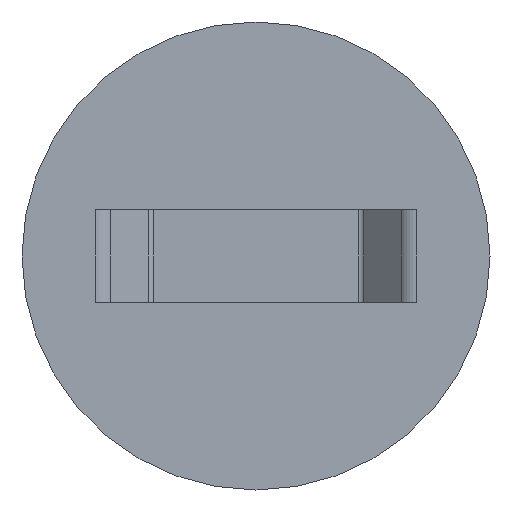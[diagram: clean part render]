
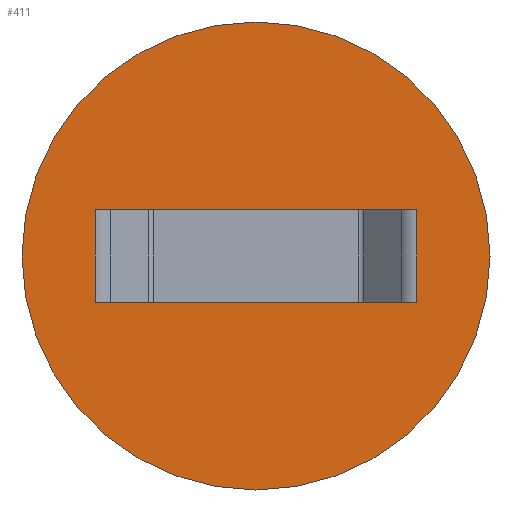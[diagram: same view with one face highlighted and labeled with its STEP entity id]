
A CAD part, front view. The second image highlights one B-rep face of the part: STEP entity #411.
In plain terms, the highlighted planar face has unit normal (0, -1, 0).
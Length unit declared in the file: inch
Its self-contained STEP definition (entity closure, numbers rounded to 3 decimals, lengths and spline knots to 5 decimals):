
#4 = CARTESIAN_POINT ( 'NONE',  ( 0.68643, -0.059, 0. ) ) ;
#27 = VECTOR ( 'NONE', #541, 39.37008 ) ;
#36 = EDGE_CURVE ( 'NONE', #315, #49, #259, .T. ) ;
#49 = VERTEX_POINT ( 'NONE', #778 ) ;
#55 = CARTESIAN_POINT ( 'NONE',  ( 0., -0.059, -0.197 ) ) ;
#61 = VECTOR ( 'NONE', #268, 39.37008 ) ;
#92 = CARTESIAN_POINT ( 'NONE',  ( 0.68643, -0.059, -0.394 ) ) ;
#128 = CARTESIAN_POINT ( 'NONE',  ( -0.68643, -0.059, -0.394 ) ) ;
#146 = CARTESIAN_POINT ( 'NONE',  ( 0., -0.059, -0.197 ) ) ;
#155 = CARTESIAN_POINT ( 'NONE',  ( -1., -0.059, -0.394 ) ) ;
#172 = DIRECTION ( 'NONE',  ( 1., 0., 0. ) ) ;
#182 = DIRECTION ( 'NONE',  ( 0., 0., 1. ) ) ;
#184 = EDGE_LOOP ( 'NONE', ( #742, #773, #581, #753 ) ) ;
#213 = LINE ( 'NONE', #335, #61 ) ;
#217 = EDGE_CURVE ( 'NONE', #488, #49, #729, .T. ) ;
#237 = VECTOR ( 'NONE', #182, 39.37008 ) ;
#259 = LINE ( 'NONE', #413, #27 ) ;
#264 = CIRCLE ( 'NONE', #754, 1. ) ;
#268 = DIRECTION ( 'NONE',  ( 0., 0., 1. ) ) ;
#302 = DIRECTION ( 'NONE',  ( 0., -1., 0. ) ) ;
#315 = VERTEX_POINT ( 'NONE', #4 ) ;
#334 = EDGE_LOOP ( 'NONE', ( #766, #588 ) ) ;
#335 = CARTESIAN_POINT ( 'NONE',  ( 0.68643, -0.059, -0.394 ) ) ;
#339 = PLANE ( 'NONE',  #349 ) ;
#349 = AXIS2_PLACEMENT_3D ( 'NONE', #155, #771, #404 ) ;
#373 = VERTEX_POINT ( 'NONE', #392 ) ;
#380 = EDGE_CURVE ( 'NONE', #751, #315, #213, .T. ) ;
#392 = CARTESIAN_POINT ( 'NONE',  ( 1., -0.059, -0.197 ) ) ;
#404 = DIRECTION ( 'NONE',  ( 0., 0., -1. ) ) ;
#411 = ADVANCED_FACE ( 'NONE', ( #529, #475 ), #339, .T. ) ;
#413 = CARTESIAN_POINT ( 'NONE',  ( -0.68643, -0.059, 0. ) ) ;
#446 = VECTOR ( 'NONE', #172, 39.37008 ) ;
#458 = EDGE_CURVE ( 'NONE', #687, #373, #565, .T. ) ;
#475 = FACE_BOUND ( 'NONE', #184, .T. ) ;
#477 = DIRECTION ( 'NONE',  ( 1., 0., 0. ) ) ;
#488 = VERTEX_POINT ( 'NONE', #128 ) ;
#526 = DIRECTION ( 'NONE',  ( 0., -1., 0. ) ) ;
#529 = FACE_OUTER_BOUND ( 'NONE', #334, .T. ) ;
#534 = CARTESIAN_POINT ( 'NONE',  ( -0.68643, -0.059, -0.394 ) ) ;
#541 = DIRECTION ( 'NONE',  ( -1., 0., 0. ) ) ;
#565 = CIRCLE ( 'NONE', #724, 1. ) ;
#569 = DIRECTION ( 'NONE',  ( 1., 0., 0. ) ) ;
#581 = ORIENTED_EDGE ( 'NONE', *, *, #801, .F. ) ;
#588 = ORIENTED_EDGE ( 'NONE', *, *, #458, .T. ) ;
#593 = LINE ( 'NONE', #534, #446 ) ;
#615 = CARTESIAN_POINT ( 'NONE',  ( -0.68643, -0.059, -0.394 ) ) ;
#673 = EDGE_CURVE ( 'NONE', #373, #687, #264, .T. ) ;
#687 = VERTEX_POINT ( 'NONE', #730 ) ;
#724 = AXIS2_PLACEMENT_3D ( 'NONE', #55, #302, #569 ) ;
#729 = LINE ( 'NONE', #615, #237 ) ;
#730 = CARTESIAN_POINT ( 'NONE',  ( -1., -0.059, -0.197 ) ) ;
#742 = ORIENTED_EDGE ( 'NONE', *, *, #36, .F. ) ;
#751 = VERTEX_POINT ( 'NONE', #92 ) ;
#753 = ORIENTED_EDGE ( 'NONE', *, *, #217, .T. ) ;
#754 = AXIS2_PLACEMENT_3D ( 'NONE', #146, #526, #477 ) ;
#766 = ORIENTED_EDGE ( 'NONE', *, *, #673, .T. ) ;
#771 = DIRECTION ( 'NONE',  ( 0., -1., 0. ) ) ;
#773 = ORIENTED_EDGE ( 'NONE', *, *, #380, .F. ) ;
#778 = CARTESIAN_POINT ( 'NONE',  ( -0.68643, -0.059, 0. ) ) ;
#801 = EDGE_CURVE ( 'NONE', #488, #751, #593, .T. ) ;
